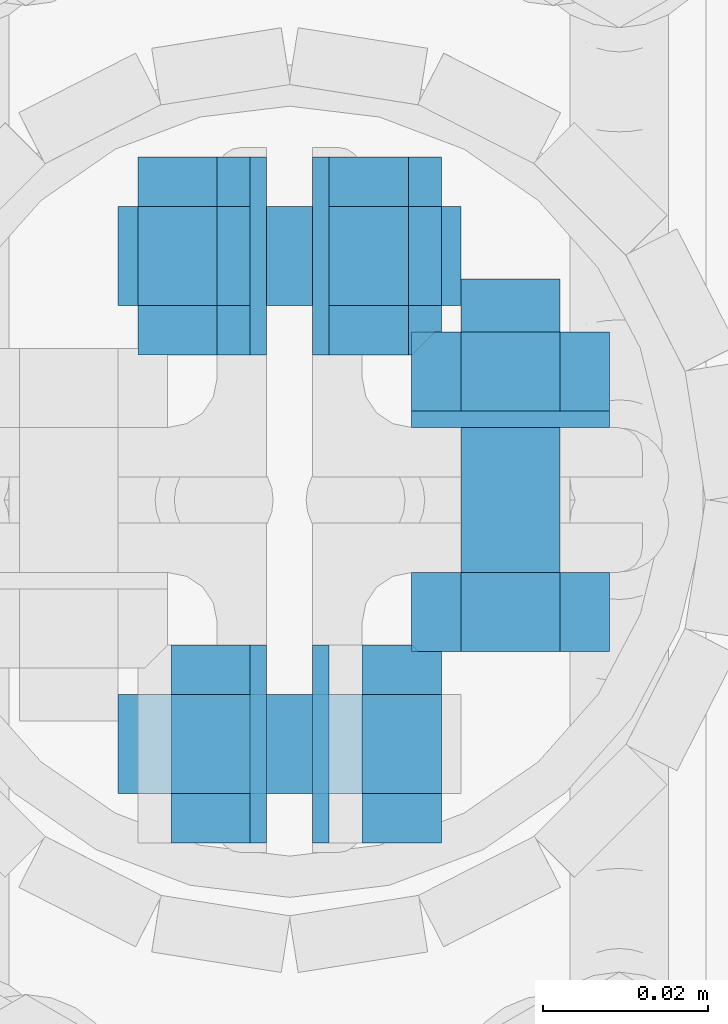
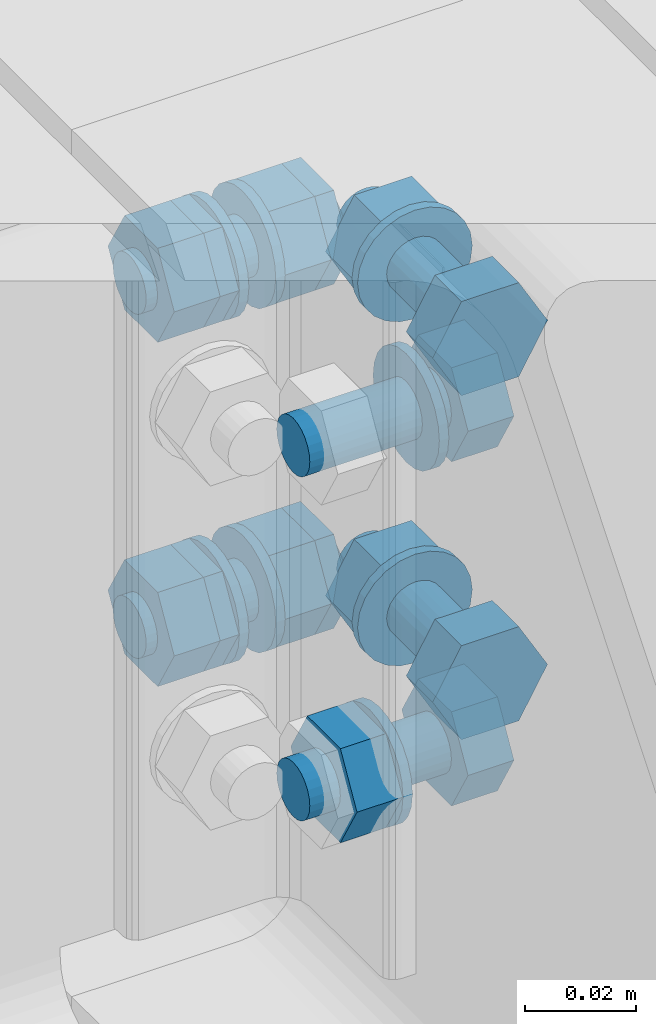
# One storey, part 61 of 84: 39 mechanical fasteners.
"""IFC4 building model written with IfcOpenShell, lengths in metres."""

from ifc_helpers import new_model, si_unit, frame, origin_with_axes, place, context, project, spatial, polyline, outline, extrude, type_object, element, save


model = new_model("IFC4")

# Units and contexts
model_context = context("Model", 3, precision=1e-05, world=origin_with_axes())
ifc_project = project(units=[si_unit("LENGTHUNIT", "METRE"), si_unit("AREAUNIT", "SQUARE_METRE"), si_unit("VOLUMEUNIT", "CUBIC_METRE"), si_unit("MASSUNIT", "GRAM", prefix="KILO"), si_unit("TIMEUNIT", "SECOND"), si_unit("PLANEANGLEUNIT", "RADIAN"), si_unit("SOLIDANGLEUNIT", "STERADIAN"), si_unit("THERMODYNAMICTEMPERATUREUNIT", "DEGREE_CELSIUS")], contexts=[model_context])

# Site, building, storey
placement_1 = place(None, origin_with_axes())
site = spatial("IfcSite", under=ifc_project, at=placement_1, Name="Italia", CompositionType="ELEMENT")
building = spatial("IfcBuilding", under=site, at=placement_1, Name="Tettoia", CompositionType="ELEMENT")
storey_placement = place(None, frame((0.0, 0.0, 4.199999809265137), z_axis=(0.0, 0.0, 1.0), x_axis=(1.0, 0.0, 0.0)))
storey = spatial("IfcBuildingStorey", under=building, at=storey_placement, Name="Storey 1", CompositionType="ELEMENT", Elevation=4.199999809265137)

# Mechanical fasteners
mechanical_fastener_type_1 = type_object("IfcMechanicalFastenerType", Name="Collegamento 0109_0108", PredefinedType="BOLT")
placement_2 = place(placement_1, origin_with_axes())
mechanical_fastener_1_placement = place(placement_2, origin_with_axes())
element("IfcMechanicalFastener", 1, at=mechanical_fastener_1_placement, inside=storey, type_object=mechanical_fastener_type_1, Name="Collegamento 0109_0108", NominalDiameter=0.024, context=model_context, shape_type="SweptSolid", body=[
    extrude(outline(polyline([(0.0, 0.0), (-0.000409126, -0.00310564), (-0.00160789, -0.00600004), (-0.00351524, -0.00848532), (-0.00600052, -0.0103922), (-0.00889397, -0.011591), (-0.0120001, -0.0120001), (-0.0151062, -0.011591), (-0.0179996, -0.0103922), (-0.0204849, -0.00848532), (-0.0223923, -0.00600004), (-0.023591, -0.00310564), (-0.0240002, 0.0), (-0.023591, 0.00310564), (-0.0223923, 0.00600004), (-0.0204849, 0.00848532), (-0.0179996, 0.0103922), (-0.0151062, 0.011591), (-0.0120001, 0.0120001), (-0.00889397, 0.011591), (-0.00600052, 0.0103922), (-0.00351524, 0.00848532), (-0.00160789, 0.00600004), (-0.000409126, 0.00310564), (0.0, 0.0)])), frame((8.2948, 9.9284, 4.338), z_axis=(-1.0, 0.0, 0.0), x_axis=(0.0, -1.0, 0.0)), (0.0, 0.0, 1.0), 0.00199986),
])
mechanical_fastener_type_2 = type_object("IfcMechanicalFastenerType", Name="Collegamento 0109_0108", PredefinedType="BOLT")
mechanical_fastener_2_placement = place(placement_2, origin_with_axes())
element("IfcMechanicalFastener", 2, at=mechanical_fastener_2_placement, inside=storey, type_object=mechanical_fastener_type_2, Name="Collegamento 0109_0108", NominalDiameter=0.0119997, context=model_context, shape_type="SweptSolid", body=[
    extrude(outline(polyline([(0.0, 0.0), (-0.0120001, 0.0), (-0.0179996, 0.0103922), (-0.0120001, 0.0207844), (0.0, 0.0207844), (0.00600052, 0.0103922), (0.0, 0.0)])), frame((8.2716, 10.0056, 4.25161), z_axis=(1.0, 0.0, 0.0), x_axis=(0.0, 1.0, 0.0)), (0.0, 0.0, 1.0), 0.00960064),
])
mechanical_fastener_type_3 = type_object("IfcMechanicalFastenerType", Name="Collegamento 0109_0108", PredefinedType="BOLT")
mechanical_fastener_3_placement = place(placement_2, origin_with_axes())
element("IfcMechanicalFastener", 3, at=mechanical_fastener_3_placement, inside=storey, type_object=mechanical_fastener_type_3, Name="Collegamento 0109_0108", NominalDiameter=0.012, context=model_context, shape_type="SweptSolid", body=[
    extrude(outline(polyline([(0.0, 0.0), (-0.000204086, -0.00155306), (-0.000802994, -0.00299978), (-0.00175667, -0.00424242), (-0.00299931, -0.00519609), (-0.00444698, -0.00579548), (-0.00599957, -0.00600004), (-0.00755215, -0.00579548), (-0.00899982, -0.00519609), (-0.0102425, -0.00424242), (-0.0111961, -0.00299978), (-0.011795, -0.00155306), (-0.0119991, 0.0), (-0.011795, 0.00155306), (-0.0111961, 0.00299978), (-0.0102425, 0.00424242), (-0.00899982, 0.00519609), (-0.00755215, 0.00579548), (-0.00599957, 0.00600004), (-0.00444698, 0.00579548), (-0.00299931, 0.00519609), (-0.00175667, 0.00424242), (-0.000802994, 0.00299978), (-0.000204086, 0.00155306), (0.0, 0.0)])), frame((8.2812, 10.0056, 4.262), z_axis=(1.0, 0.0, 0.0), x_axis=(0.0, 1.0, 0.0)), (0.0, 0.0, 1.0), 0.0295992),
])
mechanical_fastener_type_4 = type_object("IfcMechanicalFastenerType", Name="Collegamento 0109_0108", PredefinedType="BOLT")
mechanical_fastener_4_placement = place(placement_2, origin_with_axes())
element("IfcMechanicalFastener", 4, at=mechanical_fastener_4_placement, inside=storey, type_object=mechanical_fastener_type_4, Name="Collegamento 0109_0108", NominalDiameter=0.0119997, context=model_context, shape_type="SweptSolid", body=[
    extrude(outline(polyline([(0.0, 0.0), (-0.0120001, 0.0), (-0.0179996, 0.0103922), (-0.0120001, 0.0207844), (0.0, 0.0207844), (0.00600052, 0.0103922), (0.0, 0.0)])), frame((8.2948, 10.0056, 4.25161), z_axis=(1.0, 0.0, 0.0), x_axis=(0.0, 1.0, 0.0)), (0.0, 0.0, 1.0), 0.00960064),
])
mechanical_fastener_type_5 = type_object("IfcMechanicalFastenerType", Name="Collegamento 0109_0108", PredefinedType="BOLT")
mechanical_fastener_5_placement = place(placement_2, origin_with_axes())
element("IfcMechanicalFastener", 5, at=mechanical_fastener_5_placement, inside=storey, type_object=mechanical_fastener_type_5, Name="Collegamento 0109_0108", NominalDiameter=0.024, context=model_context, shape_type="SweptSolid", body=[
    extrude(outline(polyline([(0.0, 0.0), (-0.000409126, -0.00310564), (-0.00160789, -0.00600004), (-0.00351524, -0.00848532), (-0.00600052, -0.0103922), (-0.00889397, -0.011591), (-0.0120001, -0.0120001), (-0.0151062, -0.011591), (-0.0179996, -0.0103922), (-0.0204849, -0.00848532), (-0.0223923, -0.00600004), (-0.023591, -0.00310564), (-0.0240002, 0.0), (-0.023591, 0.00310564), (-0.0223923, 0.00600004), (-0.0204849, 0.00848532), (-0.0179996, 0.0103922), (-0.0151062, 0.011591), (-0.0120001, 0.0120001), (-0.00889397, 0.011591), (-0.00600052, 0.0103922), (-0.00351524, 0.00848532), (-0.00160789, 0.00600004), (-0.000409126, 0.00310564), (0.0, 0.0)])), frame((8.2928, 10.0116, 4.262), z_axis=(1.0, 0.0, 0.0), x_axis=(0.0, 1.0, 0.0)), (0.0, 0.0, 1.0), 0.00199986),
])
mechanical_fastener_type_6 = type_object("IfcMechanicalFastenerType", Name="Collegamento 0109_0108", PredefinedType="BOLT")
mechanical_fastener_6_placement = place(placement_2, origin_with_axes())
element("IfcMechanicalFastener", 6, at=mechanical_fastener_6_placement, inside=storey, type_object=mechanical_fastener_type_6, Name="Collegamento 0109_0108", NominalDiameter=0.0119997, context=model_context, shape_type="SweptSolid", body=[
    extrude(outline(polyline([(0.0, 0.0), (-0.0120001, 0.0), (-0.0179996, 0.0103922), (-0.0120001, 0.0207844), (0.0, 0.0207844), (0.00600052, 0.0103922), (0.0, 0.0)])), frame((8.2716, 10.0056, 4.32761), z_axis=(1.0, 0.0, 0.0), x_axis=(0.0, 1.0, 0.0)), (0.0, 0.0, 1.0), 0.00960064),
])
mechanical_fastener_type_7 = type_object("IfcMechanicalFastenerType", Name="Collegamento 0109_0108", PredefinedType="BOLT")
mechanical_fastener_7_placement = place(placement_2, origin_with_axes())
element("IfcMechanicalFastener", 7, at=mechanical_fastener_7_placement, inside=storey, type_object=mechanical_fastener_type_7, Name="Collegamento 0109_0108", NominalDiameter=0.012, context=model_context, shape_type="SweptSolid", body=[
    extrude(outline(polyline([(0.0, 0.0), (-0.000204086, -0.00155306), (-0.000802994, -0.00299978), (-0.00175667, -0.00424242), (-0.00299931, -0.00519609), (-0.00444698, -0.00579548), (-0.00599957, -0.00600004), (-0.00755215, -0.00579548), (-0.00899982, -0.00519609), (-0.0102425, -0.00424242), (-0.0111961, -0.00299978), (-0.011795, -0.00155306), (-0.0119991, 0.0), (-0.011795, 0.00155306), (-0.0111961, 0.00299978), (-0.0102425, 0.00424242), (-0.00899982, 0.00519609), (-0.00755215, 0.00579548), (-0.00599957, 0.00600004), (-0.00444698, 0.00579548), (-0.00299931, 0.00519609), (-0.00175667, 0.00424242), (-0.000802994, 0.00299978), (-0.000204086, 0.00155306), (0.0, 0.0)])), frame((8.2812, 10.0056, 4.338), z_axis=(1.0, 0.0, 0.0), x_axis=(0.0, 1.0, 0.0)), (0.0, 0.0, 1.0), 0.0295992),
])
mechanical_fastener_type_8 = type_object("IfcMechanicalFastenerType", Name="Collegamento 0109_0108", PredefinedType="BOLT")
mechanical_fastener_8_placement = place(placement_2, origin_with_axes())
element("IfcMechanicalFastener", 8, at=mechanical_fastener_8_placement, inside=storey, type_object=mechanical_fastener_type_8, Name="Collegamento 0109_0108", NominalDiameter=0.0119997, context=model_context, shape_type="SweptSolid", body=[
    extrude(outline(polyline([(0.0, 0.0), (-0.0120001, 0.0), (-0.0179996, 0.0103922), (-0.0120001, 0.0207844), (0.0, 0.0207844), (0.00600052, 0.0103922), (0.0, 0.0)])), frame((8.2948, 10.0056, 4.32761), z_axis=(1.0, 0.0, 0.0), x_axis=(0.0, 1.0, 0.0)), (0.0, 0.0, 1.0), 0.00960064),
])
mechanical_fastener_type_9 = type_object("IfcMechanicalFastenerType", Name="Collegamento 0109_0108", PredefinedType="BOLT")
mechanical_fastener_9_placement = place(placement_2, origin_with_axes())
element("IfcMechanicalFastener", 9, at=mechanical_fastener_9_placement, inside=storey, type_object=mechanical_fastener_type_9, Name="Collegamento 0109_0108", NominalDiameter=0.024, context=model_context, shape_type="SweptSolid", body=[
    extrude(outline(polyline([(0.0, 0.0), (-0.000409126, -0.00310564), (-0.00160789, -0.00600004), (-0.00351524, -0.00848532), (-0.00600052, -0.0103922), (-0.00889397, -0.011591), (-0.0120001, -0.0120001), (-0.0151062, -0.011591), (-0.0179996, -0.0103922), (-0.0204849, -0.00848532), (-0.0223923, -0.00600004), (-0.023591, -0.00310564), (-0.0240002, 0.0), (-0.023591, 0.00310564), (-0.0223923, 0.00600004), (-0.0204849, 0.00848532), (-0.0179996, 0.0103922), (-0.0151062, 0.011591), (-0.0120001, 0.0120001), (-0.00889397, 0.011591), (-0.00600052, 0.0103922), (-0.00351524, 0.00848532), (-0.00160789, 0.00600004), (-0.000409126, 0.00310564), (0.0, 0.0)])), frame((8.2928, 10.0116, 4.338), z_axis=(1.0, 0.0, 0.0), x_axis=(0.0, 1.0, 0.0)), (0.0, 0.0, 1.0), 0.00199986),
])
mechanical_fastener_type_10 = type_object("IfcMechanicalFastenerType", Name="Collegamento 0109_0110", PredefinedType="BOLT")
mechanical_fastener_10_placement = place(placement_2, origin_with_axes())
element("IfcMechanicalFastener", 10, at=mechanical_fastener_10_placement, inside=storey, type_object=mechanical_fastener_type_10, Name="Collegamento 0109_0110", NominalDiameter=0.0119997, context=model_context, shape_type="SweptSolid", body=[
    extrude(outline(polyline([(0.0, 0.0), (-0.0120001, 0.0), (-0.0179996, 0.0103922), (-0.0120001, 0.0207844), (0.0, 0.0207844), (0.00600052, 0.0103922), (0.0, 0.0)])), frame((8.3228, 9.9612, 4.25161), z_axis=(0.0, -1.0, 0.0), x_axis=(1.0, 0.0, 0.0)), (0.0, 0.0, 1.0), 0.00960064),
])
mechanical_fastener_type_11 = type_object("IfcMechanicalFastenerType", Name="Collegamento 0109_0110", PredefinedType="BOLT")
mechanical_fastener_11_placement = place(placement_2, origin_with_axes())
element("IfcMechanicalFastener", 11, at=mechanical_fastener_11_placement, inside=storey, type_object=mechanical_fastener_type_11, Name="Collegamento 0109_0110", NominalDiameter=0.012, context=model_context, shape_type="SweptSolid", body=[
    extrude(outline(polyline([(0.0, 0.0), (-0.000204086, -0.00155306), (-0.000802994, -0.00299978), (-0.00175667, -0.00424242), (-0.00299931, -0.00519609), (-0.00444698, -0.00579548), (-0.00599957, -0.00600004), (-0.00755215, -0.00579548), (-0.00899982, -0.00519609), (-0.0102425, -0.00424242), (-0.0111961, -0.00299978), (-0.011795, -0.00155306), (-0.0119991, 0.0), (-0.011795, 0.00155306), (-0.0111961, 0.00299978), (-0.0102425, 0.00424242), (-0.00899982, 0.00519609), (-0.00755215, 0.00579548), (-0.00599957, 0.00600004), (-0.00444698, 0.00579548), (-0.00299931, 0.00519609), (-0.00175667, 0.00424242), (-0.000802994, 0.00299978), (-0.000204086, 0.00155306), (0.0, 0.0)])), frame((8.3228, 9.9968, 4.262), z_axis=(0.0, -1.0, 0.0), x_axis=(1.0, 0.0, 0.0)), (0.0, 0.0, 1.0), 0.0355997),
])
mechanical_fastener_type_12 = type_object("IfcMechanicalFastenerType", Name="Collegamento 0109_0110", PredefinedType="BOLT")
mechanical_fastener_12_placement = place(placement_2, origin_with_axes())
element("IfcMechanicalFastener", 12, at=mechanical_fastener_12_placement, inside=storey, type_object=mechanical_fastener_type_12, Name="Collegamento 0109_0110", NominalDiameter=0.0119997, context=model_context, shape_type="SweptSolid", body=[
    extrude(outline(polyline([(0.0, 0.0), (-0.0120001, 0.0), (-0.0179996, 0.0103922), (-0.0120001, 0.0207844), (0.0, 0.0207844), (0.00600052, 0.0103922), (0.0, 0.0)])), frame((8.3228, 9.9904, 4.25161), z_axis=(0.0, -1.0, 0.0), x_axis=(1.0, 0.0, 0.0)), (0.0, 0.0, 1.0), 0.00959969),
])
mechanical_fastener_type_13 = type_object("IfcMechanicalFastenerType", Name="Collegamento 0109_0110", PredefinedType="BOLT")
mechanical_fastener_13_placement = place(placement_2, origin_with_axes())
element("IfcMechanicalFastener", 13, at=mechanical_fastener_13_placement, inside=storey, type_object=mechanical_fastener_type_13, Name="Collegamento 0109_0110", NominalDiameter=0.024, context=model_context, shape_type="SweptSolid", body=[
    extrude(outline(polyline([(0.0, 0.0), (-0.000409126, -0.00310564), (-0.00160789, -0.00600004), (-0.00351524, -0.00848532), (-0.00600052, -0.0103922), (-0.00889397, -0.011591), (-0.0120001, -0.0120001), (-0.0151062, -0.011591), (-0.0179996, -0.0103922), (-0.0204849, -0.00848532), (-0.0223923, -0.00600004), (-0.023591, -0.00310564), (-0.0240002, 0.0), (-0.023591, 0.00310564), (-0.0223923, 0.00600004), (-0.0204849, 0.00848532), (-0.0179996, 0.0103922), (-0.0151062, 0.011591), (-0.0120001, 0.0120001), (-0.00889397, 0.011591), (-0.00600052, 0.0103922), (-0.00351524, 0.00848532), (-0.00160789, 0.00600004), (-0.000409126, 0.00310564), (0.0, 0.0)])), frame((8.3288, 9.9808, 4.262), z_axis=(0.0, -1.0, 0.0), x_axis=(1.0, 0.0, 0.0)), (0.0, 0.0, 1.0), 0.00200081),
])
mechanical_fastener_type_14 = type_object("IfcMechanicalFastenerType", Name="Collegamento 0109_0110", PredefinedType="BOLT")
mechanical_fastener_14_placement = place(placement_2, origin_with_axes())
element("IfcMechanicalFastener", 14, at=mechanical_fastener_14_placement, inside=storey, type_object=mechanical_fastener_type_14, Name="Collegamento 0109_0110", NominalDiameter=0.0119997, context=model_context, shape_type="SweptSolid", body=[
    extrude(outline(polyline([(0.0, 0.0), (-0.0120001, 0.0), (-0.0179996, 0.0103922), (-0.0120001, 0.0207844), (0.0, 0.0207844), (0.00600052, 0.0103922), (0.0, 0.0)])), frame((8.3228, 9.9612, 4.32761), z_axis=(0.0, -1.0, 0.0), x_axis=(1.0, 0.0, 0.0)), (0.0, 0.0, 1.0), 0.00960064),
])
mechanical_fastener_type_15 = type_object("IfcMechanicalFastenerType", Name="Collegamento 0109_0110", PredefinedType="BOLT")
mechanical_fastener_15_placement = place(placement_2, origin_with_axes())
element("IfcMechanicalFastener", 15, at=mechanical_fastener_15_placement, inside=storey, type_object=mechanical_fastener_type_15, Name="Collegamento 0109_0110", NominalDiameter=0.012, context=model_context, shape_type="SweptSolid", body=[
    extrude(outline(polyline([(0.0, 0.0), (-0.000204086, -0.00155306), (-0.000802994, -0.00299978), (-0.00175667, -0.00424242), (-0.00299931, -0.00519609), (-0.00444698, -0.00579548), (-0.00599957, -0.00600004), (-0.00755215, -0.00579548), (-0.00899982, -0.00519609), (-0.0102425, -0.00424242), (-0.0111961, -0.00299978), (-0.011795, -0.00155306), (-0.0119991, 0.0), (-0.011795, 0.00155306), (-0.0111961, 0.00299978), (-0.0102425, 0.00424242), (-0.00899982, 0.00519609), (-0.00755215, 0.00579548), (-0.00599957, 0.00600004), (-0.00444698, 0.00579548), (-0.00299931, 0.00519609), (-0.00175667, 0.00424242), (-0.000802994, 0.00299978), (-0.000204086, 0.00155306), (0.0, 0.0)])), frame((8.3228, 9.9968, 4.338), z_axis=(0.0, -1.0, 0.0), x_axis=(1.0, 0.0, 0.0)), (0.0, 0.0, 1.0), 0.0355997),
])
mechanical_fastener_type_16 = type_object("IfcMechanicalFastenerType", Name="Collegamento 0109_0110", PredefinedType="BOLT")
mechanical_fastener_16_placement = place(placement_2, origin_with_axes())
element("IfcMechanicalFastener", 16, at=mechanical_fastener_16_placement, inside=storey, type_object=mechanical_fastener_type_16, Name="Collegamento 0109_0110", NominalDiameter=0.0119997, context=model_context, shape_type="SweptSolid", body=[
    extrude(outline(polyline([(0.0, 0.0), (-0.0120001, 0.0), (-0.0179996, 0.0103922), (-0.0120001, 0.0207844), (0.0, 0.0207844), (0.00600052, 0.0103922), (0.0, 0.0)])), frame((8.3228, 9.9904, 4.32761), z_axis=(0.0, -1.0, 0.0), x_axis=(1.0, 0.0, 0.0)), (0.0, 0.0, 1.0), 0.00959969),
])
mechanical_fastener_type_17 = type_object("IfcMechanicalFastenerType", Name="Collegamento 0109_0110", PredefinedType="BOLT")
mechanical_fastener_17_placement = place(placement_2, origin_with_axes())
element("IfcMechanicalFastener", 17, at=mechanical_fastener_17_placement, inside=storey, type_object=mechanical_fastener_type_17, Name="Collegamento 0109_0110", NominalDiameter=0.024, context=model_context, shape_type="SweptSolid", body=[
    extrude(outline(polyline([(0.0, 0.0), (-0.000409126, -0.00310564), (-0.00160789, -0.00600004), (-0.00351524, -0.00848532), (-0.00600052, -0.0103922), (-0.00889397, -0.011591), (-0.0120001, -0.0120001), (-0.0151062, -0.011591), (-0.0179996, -0.0103922), (-0.0204849, -0.00848532), (-0.0223923, -0.00600004), (-0.023591, -0.00310564), (-0.0240002, 0.0), (-0.023591, 0.00310564), (-0.0223923, 0.00600004), (-0.0204849, 0.00848532), (-0.0179996, 0.0103922), (-0.0151062, 0.011591), (-0.0120001, 0.0120001), (-0.00889397, 0.011591), (-0.00600052, 0.0103922), (-0.00351524, 0.00848532), (-0.00160789, 0.00600004), (-0.000409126, 0.00310564), (0.0, 0.0)])), frame((8.3288, 9.9808, 4.338), z_axis=(0.0, -1.0, 0.0), x_axis=(1.0, 0.0, 0.0)), (0.0, 0.0, 1.0), 0.00200081),
])
mechanical_fastener_type_18 = type_object("IfcMechanicalFastenerType", Name="Collegamento 0109_0110", PredefinedType="BOLT")
mechanical_fastener_18_placement = place(placement_2, origin_with_axes())
element("IfcMechanicalFastener", 18, at=mechanical_fastener_18_placement, inside=storey, type_object=mechanical_fastener_type_18, Name="Collegamento 0109_0110", NominalDiameter=0.0119997, context=model_context, shape_type="SweptSolid", body=[
    extrude(outline(polyline([(0.0, 0.0), (-0.0120001, 0.0), (-0.0179996, 0.0103922), (-0.0120001, 0.0207844), (0.0, 0.0207844), (0.00600052, 0.0103922), (0.0, 0.0)])), frame((8.3228, 9.9612, 4.25161), z_axis=(0.0, -1.0, 0.0), x_axis=(1.0, 0.0, 0.0)), (0.0, 0.0, 1.0), 0.00960064),
])
mechanical_fastener_type_19 = type_object("IfcMechanicalFastenerType", Name="Collegamento 0109_0110", PredefinedType="BOLT")
mechanical_fastener_19_placement = place(placement_2, origin_with_axes())
element("IfcMechanicalFastener", 19, at=mechanical_fastener_19_placement, inside=storey, type_object=mechanical_fastener_type_19, Name="Collegamento 0109_0110", NominalDiameter=0.012, context=model_context, shape_type="SweptSolid", body=[
    extrude(outline(polyline([(0.0, 0.0), (-0.000204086, -0.00155306), (-0.000802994, -0.00299978), (-0.00175667, -0.00424242), (-0.00299931, -0.00519609), (-0.00444698, -0.00579548), (-0.00599957, -0.00600004), (-0.00755215, -0.00579548), (-0.00899982, -0.00519609), (-0.0102425, -0.00424242), (-0.0111961, -0.00299978), (-0.011795, -0.00155306), (-0.0119991, 0.0), (-0.011795, 0.00155306), (-0.0111961, 0.00299978), (-0.0102425, 0.00424242), (-0.00899982, 0.00519609), (-0.00755215, 0.00579548), (-0.00599957, 0.00600004), (-0.00444698, 0.00579548), (-0.00299931, 0.00519609), (-0.00175667, 0.00424242), (-0.000802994, 0.00299978), (-0.000204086, 0.00155306), (0.0, 0.0)])), frame((8.3228, 9.9968, 4.262), z_axis=(0.0, -1.0, 0.0), x_axis=(1.0, 0.0, 0.0)), (0.0, 0.0, 1.0), 0.0355997),
])
mechanical_fastener_type_20 = type_object("IfcMechanicalFastenerType", Name="Collegamento 0109_0110", PredefinedType="BOLT")
mechanical_fastener_20_placement = place(placement_2, origin_with_axes())
element("IfcMechanicalFastener", 20, at=mechanical_fastener_20_placement, inside=storey, type_object=mechanical_fastener_type_20, Name="Collegamento 0109_0110", NominalDiameter=0.0119997, context=model_context, shape_type="SweptSolid", body=[
    extrude(outline(polyline([(0.0, 0.0), (-0.0120001, 0.0), (-0.0179996, 0.0103922), (-0.0120001, 0.0207844), (0.0, 0.0207844), (0.00600052, 0.0103922), (0.0, 0.0)])), frame((8.3228, 9.9904, 4.25161), z_axis=(0.0, -1.0, 0.0), x_axis=(1.0, 0.0, 0.0)), (0.0, 0.0, 1.0), 0.00959969),
])
mechanical_fastener_type_21 = type_object("IfcMechanicalFastenerType", Name="Collegamento 0109_0110", PredefinedType="BOLT")
mechanical_fastener_21_placement = place(placement_2, origin_with_axes())
element("IfcMechanicalFastener", 21, at=mechanical_fastener_21_placement, inside=storey, type_object=mechanical_fastener_type_21, Name="Collegamento 0109_0110", NominalDiameter=0.024, context=model_context, shape_type="SweptSolid", body=[
    extrude(outline(polyline([(0.0, 0.0), (-0.000409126, -0.00310564), (-0.00160789, -0.00600004), (-0.00351524, -0.00848532), (-0.00600052, -0.0103922), (-0.00889397, -0.011591), (-0.0120001, -0.0120001), (-0.0151062, -0.011591), (-0.0179996, -0.0103922), (-0.0204849, -0.00848532), (-0.0223923, -0.00600004), (-0.023591, -0.00310564), (-0.0240002, 0.0), (-0.023591, 0.00310564), (-0.0223923, 0.00600004), (-0.0204849, 0.00848532), (-0.0179996, 0.0103922), (-0.0151062, 0.011591), (-0.0120001, 0.0120001), (-0.00889397, 0.011591), (-0.00600052, 0.0103922), (-0.00351524, 0.00848532), (-0.00160789, 0.00600004), (-0.000409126, 0.00310564), (0.0, 0.0)])), frame((8.3288, 9.9808, 4.262), z_axis=(0.0, -1.0, 0.0), x_axis=(1.0, 0.0, 0.0)), (0.0, 0.0, 1.0), 0.00200081),
])
mechanical_fastener_type_22 = type_object("IfcMechanicalFastenerType", Name="Collegamento 0109_0110", PredefinedType="BOLT")
mechanical_fastener_22_placement = place(placement_2, origin_with_axes())
element("IfcMechanicalFastener", 22, at=mechanical_fastener_22_placement, inside=storey, type_object=mechanical_fastener_type_22, Name="Collegamento 0109_0110", NominalDiameter=0.0119997, context=model_context, shape_type="SweptSolid", body=[
    extrude(outline(polyline([(0.0, 0.0), (-0.0120001, 0.0), (-0.0179996, 0.0103922), (-0.0120001, 0.0207844), (0.0, 0.0207844), (0.00600052, 0.0103922), (0.0, 0.0)])), frame((8.3228, 9.9612, 4.32761), z_axis=(0.0, -1.0, 0.0), x_axis=(1.0, 0.0, 0.0)), (0.0, 0.0, 1.0), 0.00960064),
])
mechanical_fastener_type_23 = type_object("IfcMechanicalFastenerType", Name="Collegamento 0109_0110", PredefinedType="BOLT")
mechanical_fastener_23_placement = place(placement_2, origin_with_axes())
element("IfcMechanicalFastener", 23, at=mechanical_fastener_23_placement, inside=storey, type_object=mechanical_fastener_type_23, Name="Collegamento 0109_0110", NominalDiameter=0.012, context=model_context, shape_type="SweptSolid", body=[
    extrude(outline(polyline([(0.0, 0.0), (-0.000204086, -0.00155306), (-0.000802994, -0.00299978), (-0.00175667, -0.00424242), (-0.00299931, -0.00519609), (-0.00444698, -0.00579548), (-0.00599957, -0.00600004), (-0.00755215, -0.00579548), (-0.00899982, -0.00519609), (-0.0102425, -0.00424242), (-0.0111961, -0.00299978), (-0.011795, -0.00155306), (-0.0119991, 0.0), (-0.011795, 0.00155306), (-0.0111961, 0.00299978), (-0.0102425, 0.00424242), (-0.00899982, 0.00519609), (-0.00755215, 0.00579548), (-0.00599957, 0.00600004), (-0.00444698, 0.00579548), (-0.00299931, 0.00519609), (-0.00175667, 0.00424242), (-0.000802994, 0.00299978), (-0.000204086, 0.00155306), (0.0, 0.0)])), frame((8.3228, 9.9968, 4.338), z_axis=(0.0, -1.0, 0.0), x_axis=(1.0, 0.0, 0.0)), (0.0, 0.0, 1.0), 0.0355997),
])
mechanical_fastener_type_24 = type_object("IfcMechanicalFastenerType", Name="Collegamento 0109_0110", PredefinedType="BOLT")
mechanical_fastener_24_placement = place(placement_2, origin_with_axes())
element("IfcMechanicalFastener", 24, at=mechanical_fastener_24_placement, inside=storey, type_object=mechanical_fastener_type_24, Name="Collegamento 0109_0110", NominalDiameter=0.0119997, context=model_context, shape_type="SweptSolid", body=[
    extrude(outline(polyline([(0.0, 0.0), (-0.0120001, 0.0), (-0.0179996, 0.0103922), (-0.0120001, 0.0207844), (0.0, 0.0207844), (0.00600052, 0.0103922), (0.0, 0.0)])), frame((8.3228, 9.9904, 4.32761), z_axis=(0.0, -1.0, 0.0), x_axis=(1.0, 0.0, 0.0)), (0.0, 0.0, 1.0), 0.00959969),
])
mechanical_fastener_type_25 = type_object("IfcMechanicalFastenerType", Name="Collegamento 0109_0110", PredefinedType="BOLT")
mechanical_fastener_25_placement = place(placement_2, origin_with_axes())
element("IfcMechanicalFastener", 25, at=mechanical_fastener_25_placement, inside=storey, type_object=mechanical_fastener_type_25, Name="Collegamento 0109_0110", NominalDiameter=0.024, context=model_context, shape_type="SweptSolid", body=[
    extrude(outline(polyline([(0.0, 0.0), (-0.000409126, -0.00310564), (-0.00160789, -0.00600004), (-0.00351524, -0.00848532), (-0.00600052, -0.0103922), (-0.00889397, -0.011591), (-0.0120001, -0.0120001), (-0.0151062, -0.011591), (-0.0179996, -0.0103922), (-0.0204849, -0.00848532), (-0.0223923, -0.00600004), (-0.023591, -0.00310564), (-0.0240002, 0.0), (-0.023591, 0.00310564), (-0.0223923, 0.00600004), (-0.0204849, 0.00848532), (-0.0179996, 0.0103922), (-0.0151062, 0.011591), (-0.0120001, 0.0120001), (-0.00889397, 0.011591), (-0.00600052, 0.0103922), (-0.00351524, 0.00848532), (-0.00160789, 0.00600004), (-0.000409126, 0.00310564), (0.0, 0.0)])), frame((8.3288, 9.9808, 4.338), z_axis=(0.0, -1.0, 0.0), x_axis=(1.0, 0.0, 0.0)), (0.0, 0.0, 1.0), 0.00200081),
])
mechanical_fastener_type_26 = type_object("IfcMechanicalFastenerType", Name="Collegamento 0109_0110", PredefinedType="BOLT")
mechanical_fastener_26_placement = place(placement_2, origin_with_axes())
element("IfcMechanicalFastener", 26, at=mechanical_fastener_26_placement, inside=storey, type_object=mechanical_fastener_type_26, Name="Collegamento 0109_0110", NominalDiameter=0.0119997, context=model_context, shape_type="SweptSolid", body=[
    extrude(outline(polyline([(0.0, 0.0), (-0.0120001, 0.0), (-0.0179996, 0.0103922), (-0.0120001, 0.0207844), (0.0, 0.0207844), (0.00600052, 0.0103922), (0.0, 0.0)])), frame((8.2988, 10.0056, 4.25161), z_axis=(1.0, 0.0, 0.0), x_axis=(0.0, 1.0, 0.0)), (0.0, 0.0, 1.0), 0.00960064),
])
mechanical_fastener_type_27 = type_object("IfcMechanicalFastenerType", Name="Collegamento 0109_0110", PredefinedType="BOLT")
mechanical_fastener_27_placement = place(placement_2, origin_with_axes())
element("IfcMechanicalFastener", 27, at=mechanical_fastener_27_placement, inside=storey, type_object=mechanical_fastener_type_27, Name="Collegamento 0109_0110", NominalDiameter=0.012, context=model_context, shape_type="SweptSolid", body=[
    extrude(outline(polyline([(0.0, 0.0), (-0.000204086, -0.00155306), (-0.000802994, -0.00299978), (-0.00175667, -0.00424242), (-0.00299931, -0.00519609), (-0.00444698, -0.00579548), (-0.00599957, -0.00600004), (-0.00755215, -0.00579548), (-0.00899982, -0.00519609), (-0.0102425, -0.00424242), (-0.0111961, -0.00299978), (-0.011795, -0.00155306), (-0.0119991, 0.0), (-0.011795, 0.00155306), (-0.0111961, 0.00299978), (-0.0102425, 0.00424242), (-0.00899982, 0.00519609), (-0.00755215, 0.00579548), (-0.00599957, 0.00600004), (-0.00444698, 0.00579548), (-0.00299931, 0.00519609), (-0.00175667, 0.00424242), (-0.000802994, 0.00299978), (-0.000204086, 0.00155306), (0.0, 0.0)])), frame((8.2692, 10.0056, 4.262), z_axis=(1.0, 0.0, 0.0), x_axis=(0.0, 1.0, 0.0)), (0.0, 0.0, 1.0), 0.0295992),
])
mechanical_fastener_type_28 = type_object("IfcMechanicalFastenerType", Name="Collegamento 0109_0110", PredefinedType="BOLT")
mechanical_fastener_28_placement = place(placement_2, origin_with_axes())
element("IfcMechanicalFastener", 28, at=mechanical_fastener_28_placement, inside=storey, type_object=mechanical_fastener_type_28, Name="Collegamento 0109_0110", NominalDiameter=0.0119997, context=model_context, shape_type="SweptSolid", body=[
    extrude(outline(polyline([(0.0, 0.0), (-0.0120001, 0.0), (-0.0179996, 0.0103922), (-0.0120001, 0.0207844), (0.0, 0.0207844), (0.00600052, 0.0103922), (0.0, 0.0)])), frame((8.2756, 10.0056, 4.25161), z_axis=(1.0, 0.0, 0.0), x_axis=(0.0, 1.0, 0.0)), (0.0, 0.0, 1.0), 0.00960064),
])
mechanical_fastener_type_29 = type_object("IfcMechanicalFastenerType", Name="Collegamento 0109_0110", PredefinedType="BOLT")
mechanical_fastener_29_placement = place(placement_2, origin_with_axes())
element("IfcMechanicalFastener", 29, at=mechanical_fastener_29_placement, inside=storey, type_object=mechanical_fastener_type_29, Name="Collegamento 0109_0110", NominalDiameter=0.024, context=model_context, shape_type="SweptSolid", body=[
    extrude(outline(polyline([(0.0, 0.0), (-0.000409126, -0.00310564), (-0.00160789, -0.00600004), (-0.00351524, -0.00848532), (-0.00600052, -0.0103922), (-0.00889397, -0.011591), (-0.0120001, -0.0120001), (-0.0151062, -0.011591), (-0.0179996, -0.0103922), (-0.0204849, -0.00848532), (-0.0223923, -0.00600004), (-0.023591, -0.00310564), (-0.0240002, 0.0), (-0.023591, 0.00310564), (-0.0223923, 0.00600004), (-0.0204849, 0.00848532), (-0.0179996, 0.0103922), (-0.0151062, 0.011591), (-0.0120001, 0.0120001), (-0.00889397, 0.011591), (-0.00600052, 0.0103922), (-0.00351524, 0.00848532), (-0.00160789, 0.00600004), (-0.000409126, 0.00310564), (0.0, 0.0)])), frame((8.2852, 10.0116, 4.262), z_axis=(1.0, 0.0, 0.0), x_axis=(0.0, 1.0, 0.0)), (0.0, 0.0, 1.0), 0.00199986),
])
mechanical_fastener_type_30 = type_object("IfcMechanicalFastenerType", Name="Collegamento 0109_0110", PredefinedType="BOLT")
mechanical_fastener_30_placement = place(placement_2, origin_with_axes())
element("IfcMechanicalFastener", 30, at=mechanical_fastener_30_placement, inside=storey, type_object=mechanical_fastener_type_30, Name="Collegamento 0109_0110", NominalDiameter=0.0119997, context=model_context, shape_type="SweptSolid", body=[
    extrude(outline(polyline([(0.0, 0.0), (-0.0120001, 0.0), (-0.0179996, 0.0103922), (-0.0120001, 0.0207844), (0.0, 0.0207844), (0.00600052, 0.0103922), (0.0, 0.0)])), frame((8.2988, 10.0056, 4.32761), z_axis=(1.0, 0.0, 0.0), x_axis=(0.0, 1.0, 0.0)), (0.0, 0.0, 1.0), 0.00960064),
])
mechanical_fastener_type_31 = type_object("IfcMechanicalFastenerType", Name="Collegamento 0109_0110", PredefinedType="BOLT")
mechanical_fastener_31_placement = place(placement_2, origin_with_axes())
element("IfcMechanicalFastener", 31, at=mechanical_fastener_31_placement, inside=storey, type_object=mechanical_fastener_type_31, Name="Collegamento 0109_0110", NominalDiameter=0.012, context=model_context, shape_type="SweptSolid", body=[
    extrude(outline(polyline([(0.0, 0.0), (-0.000204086, -0.00155306), (-0.000802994, -0.00299978), (-0.00175667, -0.00424242), (-0.00299931, -0.00519609), (-0.00444698, -0.00579548), (-0.00599957, -0.00600004), (-0.00755215, -0.00579548), (-0.00899982, -0.00519609), (-0.0102425, -0.00424242), (-0.0111961, -0.00299978), (-0.011795, -0.00155306), (-0.0119991, 0.0), (-0.011795, 0.00155306), (-0.0111961, 0.00299978), (-0.0102425, 0.00424242), (-0.00899982, 0.00519609), (-0.00755215, 0.00579548), (-0.00599957, 0.00600004), (-0.00444698, 0.00579548), (-0.00299931, 0.00519609), (-0.00175667, 0.00424242), (-0.000802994, 0.00299978), (-0.000204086, 0.00155306), (0.0, 0.0)])), frame((8.2692, 10.0056, 4.338), z_axis=(1.0, 0.0, 0.0), x_axis=(0.0, 1.0, 0.0)), (0.0, 0.0, 1.0), 0.0295992),
])
mechanical_fastener_type_32 = type_object("IfcMechanicalFastenerType", Name="Collegamento 0109_0110", PredefinedType="BOLT")
mechanical_fastener_32_placement = place(placement_2, origin_with_axes())
element("IfcMechanicalFastener", 32, at=mechanical_fastener_32_placement, inside=storey, type_object=mechanical_fastener_type_32, Name="Collegamento 0109_0110", NominalDiameter=0.0119997, context=model_context, shape_type="SweptSolid", body=[
    extrude(outline(polyline([(0.0, 0.0), (-0.0120001, 0.0), (-0.0179996, 0.0103922), (-0.0120001, 0.0207844), (0.0, 0.0207844), (0.00600052, 0.0103922), (0.0, 0.0)])), frame((8.2756, 10.0056, 4.32761), z_axis=(1.0, 0.0, 0.0), x_axis=(0.0, 1.0, 0.0)), (0.0, 0.0, 1.0), 0.00960064),
])
mechanical_fastener_type_33 = type_object("IfcMechanicalFastenerType", Name="Collegamento 0109_0110", PredefinedType="BOLT")
mechanical_fastener_33_placement = place(placement_2, origin_with_axes())
element("IfcMechanicalFastener", 33, at=mechanical_fastener_33_placement, inside=storey, type_object=mechanical_fastener_type_33, Name="Collegamento 0109_0110", NominalDiameter=0.024, context=model_context, shape_type="SweptSolid", body=[
    extrude(outline(polyline([(0.0, 0.0), (-0.000409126, -0.00310564), (-0.00160789, -0.00600004), (-0.00351524, -0.00848532), (-0.00600052, -0.0103922), (-0.00889397, -0.011591), (-0.0120001, -0.0120001), (-0.0151062, -0.011591), (-0.0179996, -0.0103922), (-0.0204849, -0.00848532), (-0.0223923, -0.00600004), (-0.023591, -0.00310564), (-0.0240002, 0.0), (-0.023591, 0.00310564), (-0.0223923, 0.00600004), (-0.0204849, 0.00848532), (-0.0179996, 0.0103922), (-0.0151062, 0.011591), (-0.0120001, 0.0120001), (-0.00889397, 0.011591), (-0.00600052, 0.0103922), (-0.00351524, 0.00848532), (-0.00160789, 0.00600004), (-0.000409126, 0.00310564), (0.0, 0.0)])), frame((8.2852, 10.0116, 4.338), z_axis=(1.0, 0.0, 0.0), x_axis=(0.0, 1.0, 0.0)), (0.0, 0.0, 1.0), 0.00199986),
])
mechanical_fastener_type_34 = type_object("IfcMechanicalFastenerType", Name="Collegamento 0109_0110", PredefinedType="BOLT")
mechanical_fastener_34_placement = place(placement_2, origin_with_axes())
element("IfcMechanicalFastener", 34, at=mechanical_fastener_34_placement, inside=storey, type_object=mechanical_fastener_type_34, Name="Collegamento 0109_0110", NominalDiameter=0.0119997, context=model_context, shape_type="SweptSolid", body=[
    extrude(outline(polyline([(0.0, 0.0), (-0.0120001, 0.0), (-0.0179996, 0.0103922), (-0.0120001, 0.0207844), (0.0, 0.0207844), (0.00600052, 0.0103922), (0.0, 0.0)])), frame((8.3084, 9.9344, 4.25161), z_axis=(-1.0, 0.0, 0.0), x_axis=(0.0, -1.0, 0.0)), (0.0, 0.0, 1.0), 0.00960064),
])
mechanical_fastener_type_35 = type_object("IfcMechanicalFastenerType", Name="Collegamento 0109_0110", PredefinedType="BOLT")
mechanical_fastener_35_placement = place(placement_2, origin_with_axes())
element("IfcMechanicalFastener", 35, at=mechanical_fastener_35_placement, inside=storey, type_object=mechanical_fastener_type_35, Name="Collegamento 0109_0110", NominalDiameter=0.012, context=model_context, shape_type="SweptSolid", body=[
    extrude(outline(polyline([(0.0, 0.0), (-0.000204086, -0.00155306), (-0.000802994, -0.00299978), (-0.00175667, -0.00424242), (-0.00299931, -0.00519609), (-0.00444698, -0.00579548), (-0.00599957, -0.00600004), (-0.00755215, -0.00579548), (-0.00899982, -0.00519609), (-0.0102425, -0.00424242), (-0.0111961, -0.00299978), (-0.011795, -0.00155306), (-0.0119991, 0.0), (-0.011795, 0.00155306), (-0.0111961, 0.00299978), (-0.0102425, 0.00424242), (-0.00899982, 0.00519609), (-0.00755215, 0.00579548), (-0.00599957, 0.00600004), (-0.00444698, 0.00579548), (-0.00299931, 0.00519609), (-0.00175667, 0.00424242), (-0.000802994, 0.00299978), (-0.000204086, 0.00155306), (0.0, 0.0)])), frame((8.2988, 9.9344, 4.262), z_axis=(-1.0, 0.0, 0.0), x_axis=(0.0, -1.0, 0.0)), (0.0, 0.0, 1.0), 0.0295992),
])
mechanical_fastener_type_36 = type_object("IfcMechanicalFastenerType", Name="Collegamento 0109_0110", PredefinedType="BOLT")
mechanical_fastener_36_placement = place(placement_2, origin_with_axes())
element("IfcMechanicalFastener", 36, at=mechanical_fastener_36_placement, inside=storey, type_object=mechanical_fastener_type_36, Name="Collegamento 0109_0110", NominalDiameter=0.0119997, context=model_context, shape_type="SweptSolid", body=[
    extrude(outline(polyline([(0.0, 0.0), (-0.0120001, 0.0), (-0.0179996, 0.0103922), (-0.0120001, 0.0207844), (0.0, 0.0207844), (0.00600052, 0.0103922), (0.0, 0.0)])), frame((8.2852, 9.9344, 4.25161), z_axis=(-1.0, 0.0, 0.0), x_axis=(0.0, -1.0, 0.0)), (0.0, 0.0, 1.0), 0.00960064),
])
mechanical_fastener_type_37 = type_object("IfcMechanicalFastenerType", Name="Collegamento 0109_0110", PredefinedType="BOLT")
mechanical_fastener_37_placement = place(placement_2, origin_with_axes())
element("IfcMechanicalFastener", 37, at=mechanical_fastener_37_placement, inside=storey, type_object=mechanical_fastener_type_37, Name="Collegamento 0109_0110", NominalDiameter=0.024, context=model_context, shape_type="SweptSolid", body=[
    extrude(outline(polyline([(0.0, 0.0), (-0.000409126, -0.00310564), (-0.00160789, -0.00600004), (-0.00351524, -0.00848532), (-0.00600052, -0.0103922), (-0.00889397, -0.011591), (-0.0120001, -0.0120001), (-0.0151062, -0.011591), (-0.0179996, -0.0103922), (-0.0204849, -0.00848532), (-0.0223923, -0.00600004), (-0.023591, -0.00310564), (-0.0240002, 0.0), (-0.023591, 0.00310564), (-0.0223923, 0.00600004), (-0.0204849, 0.00848532), (-0.0179996, 0.0103922), (-0.0151062, 0.011591), (-0.0120001, 0.0120001), (-0.00889397, 0.011591), (-0.00600052, 0.0103922), (-0.00351524, 0.00848532), (-0.00160789, 0.00600004), (-0.000409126, 0.00310564), (0.0, 0.0)])), frame((8.2872, 9.9284, 4.262), z_axis=(-1.0, 0.0, 0.0), x_axis=(0.0, -1.0, 0.0)), (0.0, 0.0, 1.0), 0.00199986),
])
mechanical_fastener_type_38 = type_object("IfcMechanicalFastenerType", Name="Collegamento 0109_0110", PredefinedType="BOLT")
mechanical_fastener_38_placement = place(placement_2, origin_with_axes())
element("IfcMechanicalFastener", 38, at=mechanical_fastener_38_placement, inside=storey, type_object=mechanical_fastener_type_38, Name="Collegamento 0109_0110", NominalDiameter=0.0119997, context=model_context, shape_type="SweptSolid", body=[
    extrude(outline(polyline([(0.0, 0.0), (-0.0120001, 0.0), (-0.0179996, 0.0103922), (-0.0120001, 0.0207844), (0.0, 0.0207844), (0.00600052, 0.0103922), (0.0, 0.0)])), frame((8.3084, 9.9344, 4.32761), z_axis=(-1.0, 0.0, 0.0), x_axis=(0.0, -1.0, 0.0)), (0.0, 0.0, 1.0), 0.00960064),
])
mechanical_fastener_type_39 = type_object("IfcMechanicalFastenerType", Name="Collegamento 0109_0110", PredefinedType="BOLT")
mechanical_fastener_39_placement = place(placement_2, origin_with_axes())
element("IfcMechanicalFastener", 39, at=mechanical_fastener_39_placement, inside=storey, type_object=mechanical_fastener_type_39, Name="Collegamento 0109_0110", NominalDiameter=0.012, context=model_context, shape_type="SweptSolid", body=[
    extrude(outline(polyline([(0.0, 0.0), (-0.000204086, -0.00155306), (-0.000802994, -0.00299978), (-0.00175667, -0.00424242), (-0.00299931, -0.00519609), (-0.00444698, -0.00579548), (-0.00599957, -0.00600004), (-0.00755215, -0.00579548), (-0.00899982, -0.00519609), (-0.0102425, -0.00424242), (-0.0111961, -0.00299978), (-0.011795, -0.00155306), (-0.0119991, 0.0), (-0.011795, 0.00155306), (-0.0111961, 0.00299978), (-0.0102425, 0.00424242), (-0.00899982, 0.00519609), (-0.00755215, 0.00579548), (-0.00599957, 0.00600004), (-0.00444698, 0.00579548), (-0.00299931, 0.00519609), (-0.00175667, 0.00424242), (-0.000802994, 0.00299978), (-0.000204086, 0.00155306), (0.0, 0.0)])), frame((8.2988, 9.9344, 4.338), z_axis=(-1.0, 0.0, 0.0), x_axis=(0.0, -1.0, 0.0)), (0.0, 0.0, 1.0), 0.0295992),
])

save(model, "model.ifc")
